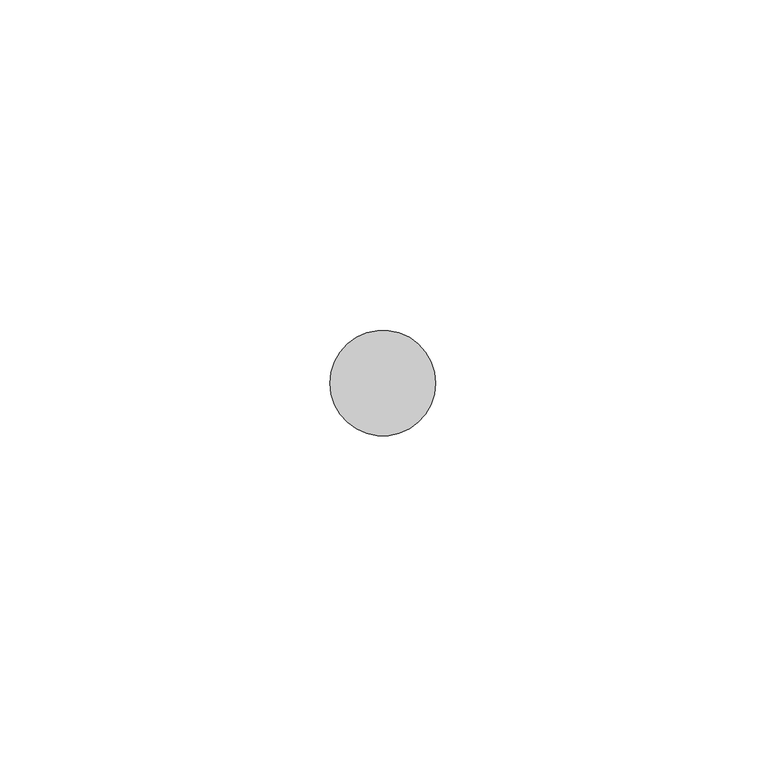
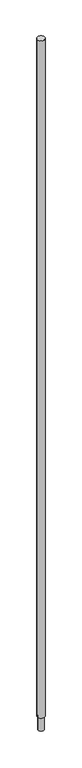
"""IFC4 building model written with IfcOpenShell, lengths in millimetres: proxy geometry, КНС_ЗаземлительВертикальный_DKC : NE1211_Горячеоцинкованная сталь_D16."""

import ifcopenshell
import ifcopenshell.guid

model = None  # the IFC model being written
_history = None  # IfcOwnerHistory: only IFC2X3 demands one
_inside = {}  # id of a spatial element -> (the spatial element, [elements in it])
_under = {}  # id of a project, library or spatial element -> (it, [spatial elements below it])
_declared = {}  # id of a project -> (the project, [libraries it declares])
_typed = {}  # id of a type object -> (the type object, [elements of that type])
_made_of = {}  # id of a material, layer set ... -> (it, [elements and type objects made of it])


def new_model(schema):
    """Start an empty IFC model of exactly this schema.

    Asked for "IFC4X3", IfcOpenShell would pick the latest addendum, in which some entities
    have other attributes; the version numbers below select the first issue.
    IFC2X3 requires an IfcOwnerHistory on every rooted entity: one is made here for all.
    """
    global model, _history
    if schema == "IFC4X3":
        model = ifcopenshell.file(schema_version=(4, 3, 0, 0))
    else:
        model = ifcopenshell.file(schema=schema)
    _inside.clear()
    _under.clear()
    _declared.clear()
    _typed.clear()
    _made_of.clear()
    _history = None
    if model.schema == "IFC2X3":
        org = make("IfcOrganization", Name="unknown")
        user = make(
            "IfcPersonAndOrganization",
            ThePerson=make("IfcPerson", FamilyName="unknown"),
            TheOrganization=org,
        )
        app = make(
            "IfcApplication",
            ApplicationDeveloper=org,
            Version="unknown",
            ApplicationFullName="unknown",
            ApplicationIdentifier="unknown",
        )
        _history = make(
            "IfcOwnerHistory",
            OwningUser=user,
            OwningApplication=app,
            ChangeAction="ADDED",
            CreationDate=0,
        )
    return model


def make(cls, **values):
    """One entity of the class cls with the attributes given. An attribute that is None is left unset."""
    return model.create_entity(
        cls, **{name: value for name, value in values.items() if value is not None}
    )


def rooted(cls, **values):
    """An entity with a GlobalId (a new one), such as an element, a storey or a relation."""
    return make(cls, GlobalId=ifcopenshell.guid.new(), OwnerHistory=_history, **values)


def si_unit(unit_type, name, prefix=None):
    """IfcSIUnit, for example si_unit("LENGTHUNIT", "METRE", prefix="MILLI")."""
    return make("IfcSIUnit", UnitType=unit_type, Prefix=prefix, Name=name)


def assignment(units):
    """IfcUnitAssignment: the units of a project."""
    return None if units is None else make("IfcUnitAssignment", Units=units)


def point(xyz):
    """IfcCartesianPoint."""
    return None if xyz is None else make("IfcCartesianPoint", Coordinates=xyz)


def direction(xyz):
    """IfcDirection."""
    return None if xyz is None else make("IfcDirection", DirectionRatios=xyz)


def frame(location, z_axis=None, x_axis=None):
    """IfcAxis2Placement3D, a coordinate frame: its origin and axes. An axis left out is left unset."""
    return make(
        "IfcAxis2Placement3D",
        Location=point(location),
        Axis=direction(z_axis),
        RefDirection=direction(x_axis),
    )


def frame_2d(location, x_axis=None):
    """IfcAxis2Placement2D, a coordinate frame in the plane: its origin and x axis."""
    return make(
        "IfcAxis2Placement2D", Location=point(location), RefDirection=direction(x_axis)
    )


def origin():
    """The frame at (0, 0, 0) with its axes left unset."""
    return frame((0.0, 0.0, 0.0))


def origin_with_axes():
    """The frame at (0, 0, 0) with the z axis (0, 0, 1) and the x axis (1, 0, 0) written out."""
    return frame((0.0, 0.0, 0.0), z_axis=(0.0, 0.0, 1.0), x_axis=(1.0, 0.0, 0.0))


def origin_2d():
    """The frame at (0, 0) in the plane with its x axis left unset."""
    return frame_2d((0.0, 0.0))


def place(relative_to, where):
    """IfcLocalPlacement: puts the frame where relative to a parent placement (None: the world)."""
    return make(
        "IfcLocalPlacement", PlacementRelTo=relative_to, RelativePlacement=where
    )


def context(
    kind, dimensions, precision=None, world=None, true_north=None, identifier=None
):
    """IfcGeometricRepresentationContext, for example the 3D "Model" context."""
    return make(
        "IfcGeometricRepresentationContext",
        ContextIdentifier=identifier,
        ContextType=kind,
        CoordinateSpaceDimension=dimensions,
        Precision=precision,
        WorldCoordinateSystem=world,
        TrueNorth=true_north,
    )


def project(units=None, contexts=None):
    """IfcProject with its units and contexts."""
    return rooted(
        "IfcProject",
        Name="project",
        RepresentationContexts=contexts,
        UnitsInContext=assignment(units),
    )


def spatial(cls, under=None, at=None, **own):
    """A site, building, storey or space (cls), placed at a placement, below another one or the project."""
    s = rooted(cls, ObjectPlacement=at, **own)
    if under is not None:
        _under.setdefault(under.id(), (under, []))[1].append(s)
    return s


def circle_curve(where, radius):
    """IfcCircle in the frame where."""
    return make("IfcCircle", Position=where, Radius=radius)


def trimmed(basis, trim1, trim2, sense, master):
    """IfcTrimmedCurve: the piece of a basis curve between two trims."""
    return make(
        "IfcTrimmedCurve",
        BasisCurve=basis,
        Trim1=trim1,
        Trim2=trim2,
        SenseAgreement=sense,
        MasterRepresentation=master,
    )


def segment(curve, same_sense, transition):
    """IfcCompositeCurveSegment."""
    return make(
        "IfcCompositeCurveSegment",
        Transition=transition,
        SameSense=same_sense,
        ParentCurve=curve,
    )


def composite_curve(segments, self_intersect=None):
    """IfcCompositeCurve: segments joined end to end."""
    return make("IfcCompositeCurve", Segments=segments, SelfIntersect=self_intersect)


def outline(outer, holes=None, kind="AREA"):
    """IfcArbitraryClosedProfileDef: a profile drawn as a closed curve; with holes, ...WithVoids."""
    if holes is None:
        return make("IfcArbitraryClosedProfileDef", ProfileType=kind, OuterCurve=outer)
    return make(
        "IfcArbitraryProfileDefWithVoids",
        ProfileType=kind,
        OuterCurve=outer,
        InnerCurves=holes,
    )


def extrude(swept, where, along, depth):
    """IfcExtrudedAreaSolid: the profile swept, set in the frame where, extruded along a direction by depth."""
    return make(
        "IfcExtrudedAreaSolid",
        SweptArea=swept,
        Position=where,
        ExtrudedDirection=direction(along),
        Depth=depth,
    )


def shape(context_of_items, identifier, shape_type, items):
    """IfcShapeRepresentation: the items that make up one representation, for example the "Body"."""
    return make(
        "IfcShapeRepresentation",
        ContextOfItems=context_of_items,
        RepresentationIdentifier=identifier,
        RepresentationType=shape_type,
        Items=items,
    )


def source(mapping_origin, context_of_items, identifier, shape_type, items):
    """IfcRepresentationMap: a shape defined once, which mapped items show again and again."""
    return make(
        "IfcRepresentationMap",
        MappingOrigin=mapping_origin,
        MappedRepresentation=shape(context_of_items, identifier, shape_type, items),
    )


def transform(
    local_origin,
    x_axis=None,
    y_axis=None,
    z_axis=None,
    scale=None,
    scale2=None,
    scale3=None,
    uniform=True,
):
    """IfcCartesianTransformationOperator3D, or its non-uniform kind. x_axis, y_axis, z_axis: its Axis1, 2, 3."""
    if uniform:
        return make(
            "IfcCartesianTransformationOperator3D",
            Axis1=direction(x_axis),
            Axis2=direction(y_axis),
            LocalOrigin=point(local_origin),
            Scale=scale,
            Axis3=direction(z_axis),
        )
    return make(
        "IfcCartesianTransformationOperator3DnonUniform",
        Axis1=direction(x_axis),
        Axis2=direction(y_axis),
        LocalOrigin=point(local_origin),
        Scale=scale,
        Axis3=direction(z_axis),
        Scale2=scale2,
        Scale3=scale3,
    )


def mapped(mapping_source, mapping_target):
    """IfcMappedItem: shows the shape of a source again, moved by a transform."""
    return make(
        "IfcMappedItem", MappingSource=mapping_source, MappingTarget=mapping_target
    )


def made_of(thing, what):
    """Note that an element or type object is made of a material, layer set ...; save() writes the relation."""
    if what is not None:
        _made_of.setdefault(what.id(), (what, []))[1].append(thing)
    return thing


def element(
    cls,
    number,
    at=None,
    inside=None,
    cuts=None,
    type_object=None,
    material=None,
    context=None,
    identifier="Body",
    shape_type=None,
    held_by="IfcProductDefinitionShape",
    body=None,
    shapes=None,
    **own,
):
    """One element of the class cls, such as IfcWall. Its Tag is "e" and its number.

    at: its placement. inside: the storey or other place that contains it. cuts: it is an
    opening in that element (IfcRelVoidsElement). A single representation is given by context,
    identifier, shape_type and body (its items); several are given by shapes. held_by: the class
    of the entity that holds the representations. save() writes the other relations.
    """
    e = rooted(cls, Tag="e%d" % number, ObjectPlacement=at, **own)
    if body is not None:
        shapes = [shape(context, identifier, shape_type, body)]
    if shapes is not None:
        e.Representation = make(held_by, Representations=shapes)
    if inside is not None:
        _inside.setdefault(inside.id(), (inside, []))[1].append(e)
    if cuts is not None:
        rooted(
            "IfcRelVoidsElement", RelatingBuildingElement=cuts, RelatedOpeningElement=e
        )
    if type_object is not None:
        _typed.setdefault(type_object.id(), (type_object, []))[1].append(e)
    return made_of(e, material)


def aggregate(whole, parts):
    """IfcRelAggregates: a whole, such as a stair, and the parts it consists of."""
    return rooted("IfcRelAggregates", RelatingObject=whole, RelatedObjects=parts)


def save(model, path):
    """Write the relations noted so far, then the file.

    IfcRelAggregates (storeys below a building ...), IfcRelContainedInSpatialStructure (elements
    in a storey), IfcRelDefinesByType, IfcRelAssociatesMaterial and IfcRelDeclares: one each for
    every whole, place, type object, material and project.
    """
    for whole, parts in _under.values():
        aggregate(whole, parts)
    for where, things in _inside.values():
        rooted(
            "IfcRelContainedInSpatialStructure",
            RelatedElements=things,
            RelatingStructure=where,
        )
    for kind, things in _typed.values():
        rooted("IfcRelDefinesByType", RelatedObjects=things, RelatingType=kind)
    for what, things in _made_of.values():
        rooted("IfcRelAssociatesMaterial", RelatedObjects=things, RelatingMaterial=what)
    for by, libraries in _declared.values():
        rooted("IfcRelDeclares", RelatingContext=by, RelatedDefinitions=libraries)
    model.write(path)


def security_devices_08c832ad(model_context):
    return source(origin(), model_context, "Body", "SweptSolid", [
        extrude(outline(composite_curve([segment(trimmed(circle_curve(origin_2d(), 6.0), [point((-6.0, 0.0))], [point((6.0, 0.0))], False, "CARTESIAN"), True, "CONTINUOUS"), segment(trimmed(circle_curve(origin_2d(), 6.0), [point((6.0, 0.0))], [point((-6.0, 0.0))], False, "CARTESIAN"), True, "CONTINUOUS")], self_intersect=False)), frame((0.0, 0.0, -30.0), z_axis=(0.0, 0.0, 1.0), x_axis=(1.0, 0.0, 0.0)), (0.0, 0.0, 1.0), 30.0),
        extrude(outline(composite_curve([segment(trimmed(circle_curve(origin_2d(), 8.0), [point((-8.0, 0.0))], [point((8.0, 0.0))], False, "CARTESIAN"), True, "CONTINUOUS"), segment(trimmed(circle_curve(origin_2d(), 8.0), [point((8.0, 0.0))], [point((-8.0, 0.0))], False, "CARTESIAN"), True, "CONTINUOUS")], self_intersect=False)), origin_with_axes(), (0.0, 0.0, 1.0), 1500.0),
    ])


if __name__ == "__main__":
    model = new_model("IFC4")
    model_context = context("Model", 3, world=origin())
    ifc_project = project(units=[si_unit("LENGTHUNIT", "METRE", prefix="MILLI")], contexts=[model_context])
    site = spatial("IfcSite", under=ifc_project)
    building = spatial("IfcBuilding", under=site)
    placement = place(None, origin())
    security_devices_shape = security_devices_08c832ad(model_context)
    element("IfcBuildingElementProxy", 1, Name="КНС_ЗаземлительВертикальный_DKC : NE1211_Горячеоцинкованная сталь_D16", ObjectType="КНС_ЗаземлительВертикальный_DKC : NE1211_Горячеоцинкованная сталь_D16", at=placement, inside=building, context=model_context, shape_type="MappedRepresentation", body=[
        mapped(security_devices_shape, transform((0.0, 0.0, 0.0), x_axis=(1.0, 0.0, 0.0), y_axis=(0.0, 1.0, 0.0), z_axis=(0.0, 0.0, 1.0))),
    ])
    save(model, "model.ifc")
